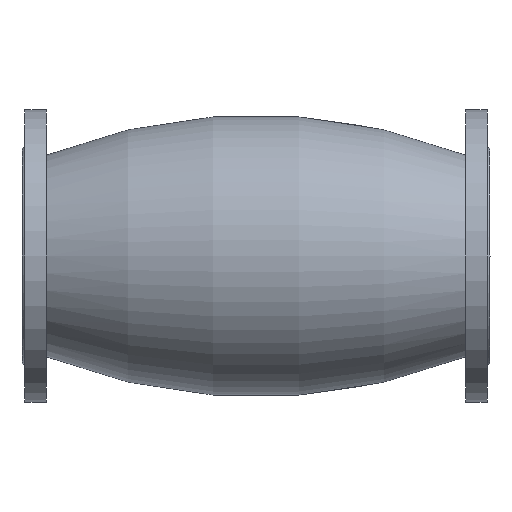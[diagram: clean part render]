
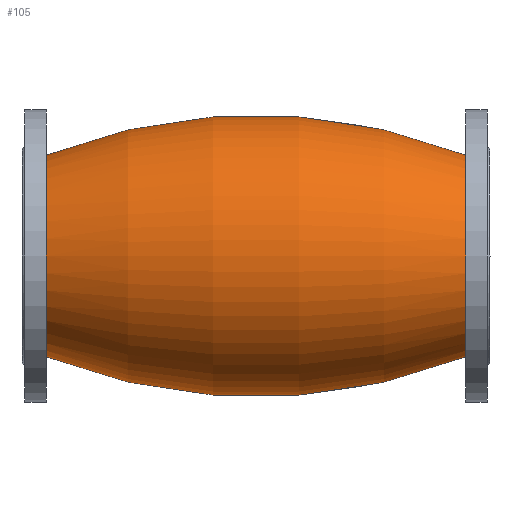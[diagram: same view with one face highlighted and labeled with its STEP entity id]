
A CAD part, front view. The second image highlights one B-rep face of the part: STEP entity #105.
In plain terms, the highlighted toroidal (fillet/blend) face has major radius 369.767 mm and minor radius 490 mm.
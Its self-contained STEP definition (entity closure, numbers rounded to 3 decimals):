
#14 = CARTESIAN_POINT ( 'NONE',  ( 379.454, 0., 0. ) ) ;
#101 = FACE_OUTER_BOUND ( 'NONE', #3878, .T. ) ;
#105 = ADVANCED_FACE ( 'NONE', ( #101 ), #5320, .T. ) ;
#143 = ORIENTED_EDGE ( 'NONE', *, *, #1418, .F. ) ;
#1284 = AXIS2_PLACEMENT_3D ( 'NONE', #14, #8632, #2660 ) ;
#1418 = EDGE_CURVE ( 'NONE', #6510, #1474, #10950, .T. ) ;
#1419 = EDGE_CURVE ( 'NONE', #11397, #7737, #2697, .T. ) ;
#1474 = VERTEX_POINT ( 'NONE', #6504 ) ;
#1501 = AXIS2_PLACEMENT_3D ( 'NONE', #7653, #11509, #8387 ) ;
#1836 = ORIENTED_EDGE ( 'NONE', *, *, #11595, .F. ) ;
#1905 = DIRECTION ( 'NONE',  ( 0., 0., -1. ) ) ;
#2387 = ORIENTED_EDGE ( 'NONE', *, *, #1419, .F. ) ;
#2660 = DIRECTION ( 'NONE',  ( 0., 0., -1. ) ) ;
#2697 = CIRCLE ( 'NONE', #9741, 86.19 ) ;
#2716 = DIRECTION ( 'NONE',  ( 0., 1., 0. ) ) ;
#3148 = ORIENTED_EDGE ( 'NONE', *, *, #7847, .T. ) ;
#3878 = EDGE_LOOP ( 'NONE', ( #143, #3148, #2387, #1836 ) ) ;
#5121 = DIRECTION ( 'NONE',  ( 0., -1., 0. ) ) ;
#5136 = AXIS2_PLACEMENT_3D ( 'NONE', #11924, #5121, #6192 ) ;
#5320 = TOROIDAL_SURFACE ( 'NONE', #1501, -369.766, 490. ) ;
#5365 = CARTESIAN_POINT ( 'NONE',  ( 20.546, 0., -86.19 ) ) ;
#5570 = CIRCLE ( 'NONE', #8589, 490. ) ;
#6129 = CARTESIAN_POINT ( 'NONE',  ( 20.546, 0., 86.19 ) ) ;
#6192 = DIRECTION ( 'NONE',  ( 0., 0., -1. ) ) ;
#6504 = CARTESIAN_POINT ( 'NONE',  ( 379.454, 0., -86.19 ) ) ;
#6510 = VERTEX_POINT ( 'NONE', #10530 ) ;
#6565 = DIRECTION ( 'NONE',  ( -1., 0., 0. ) ) ;
#6683 = DIRECTION ( 'NONE',  ( -1., 0., 0. ) ) ;
#7653 = CARTESIAN_POINT ( 'NONE',  ( 200., 0., 0. ) ) ;
#7737 = VERTEX_POINT ( 'NONE', #6129 ) ;
#7847 = EDGE_CURVE ( 'NONE', #6510, #7737, #11587, .T. ) ;
#8387 = DIRECTION ( 'NONE',  ( 0., 0., -1. ) ) ;
#8589 = AXIS2_PLACEMENT_3D ( 'NONE', #11362, #2716, #6565 ) ;
#8632 = DIRECTION ( 'NONE',  ( 1., 0., 0. ) ) ;
#9741 = AXIS2_PLACEMENT_3D ( 'NONE', #10538, #6683, #1905 ) ;
#10530 = CARTESIAN_POINT ( 'NONE',  ( 379.454, 0., 86.19 ) ) ;
#10538 = CARTESIAN_POINT ( 'NONE',  ( 20.546, 0., 0. ) ) ;
#10950 = CIRCLE ( 'NONE', #1284, 86.19 ) ;
#11362 = CARTESIAN_POINT ( 'NONE',  ( 200., 0., 369.766 ) ) ;
#11397 = VERTEX_POINT ( 'NONE', #5365 ) ;
#11509 = DIRECTION ( 'NONE',  ( -1., 0., 0. ) ) ;
#11587 = CIRCLE ( 'NONE', #5136, 490. ) ;
#11595 = EDGE_CURVE ( 'NONE', #1474, #11397, #5570, .T. ) ;
#11924 = CARTESIAN_POINT ( 'NONE',  ( 200., 0., -369.766 ) ) ;
